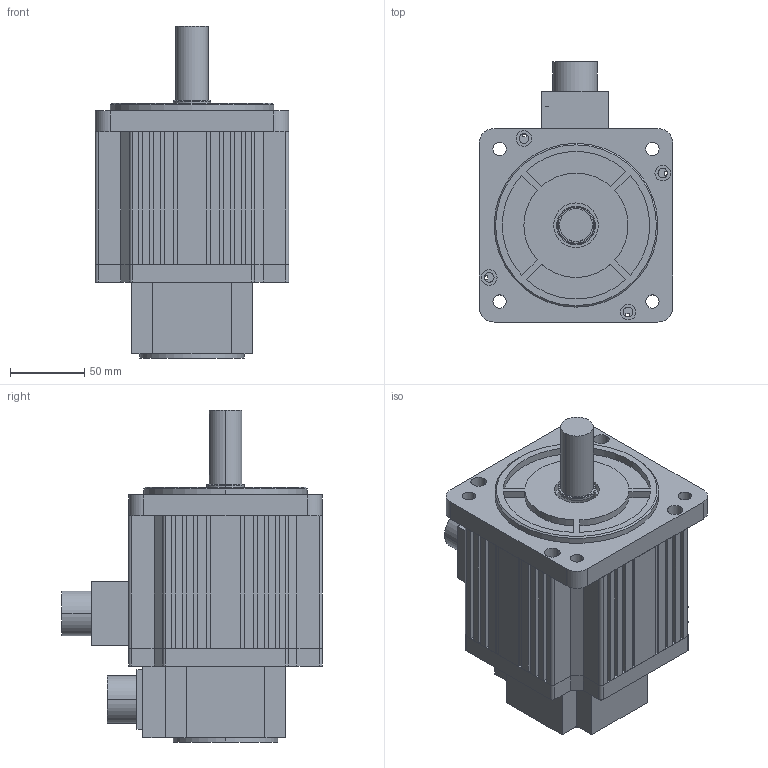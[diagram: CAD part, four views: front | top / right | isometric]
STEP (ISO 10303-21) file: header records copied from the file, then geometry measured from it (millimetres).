
FILE_DESCRIPTION (( 'STEP AP203' ), '1' );
FILE_NAME ('130-04025.STEP', '2020-03-09T13:17:03', ( '' ), ( '' ), 'SwSTEP 2.0', 'SolidWorks 2016', '' );
FILE_SCHEMA (( 'CONFIG_CONTROL_DESIGN' ));
Length unit declared in the file: millimetre
Products named in the file (8): 130瑤脣; 130粣; 130晤鎢ん; 130隅赽 4籟; 130侜督ヶ裔; 130瑤脣2; 130侜督綴裔; 130-04025
Assembly tree (7 placements, depth 2):
  130-04025
    130隅赽 4籟
    130侜督ヶ裔
    130侜督綴裔
    130晤鎢ん
    130粣
    130瑤脣2
    130瑤脣
Bounding box: 130 x 175 x 223 mm (x, y, z)
Volume: 1019065.4 mm3; surface area: 273133.3 mm2
Topology: 8 solids, 8 shells, 528 faces, 1327 edges, 868 vertices
Faces by surface type: plane 331, cylinder 181, cone 10, bspline 4, torus 2
Entity records: 16720 total; most frequent: CARTESIAN_POINT 2835, DIRECTION 2767, ORIENTED_EDGE 2638, EDGE_CURVE 1319, AXIS2_PLACEMENT_3D 930, LINE 907, VECTOR 907, VERTEX_POINT 868
